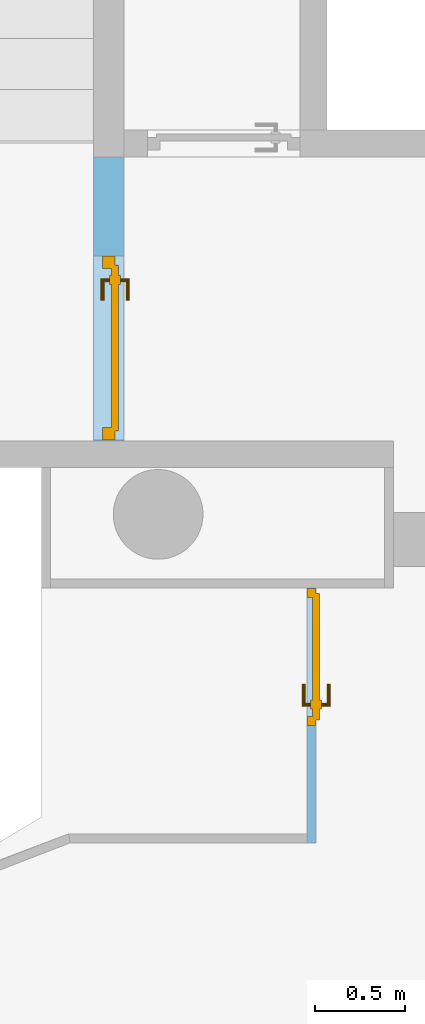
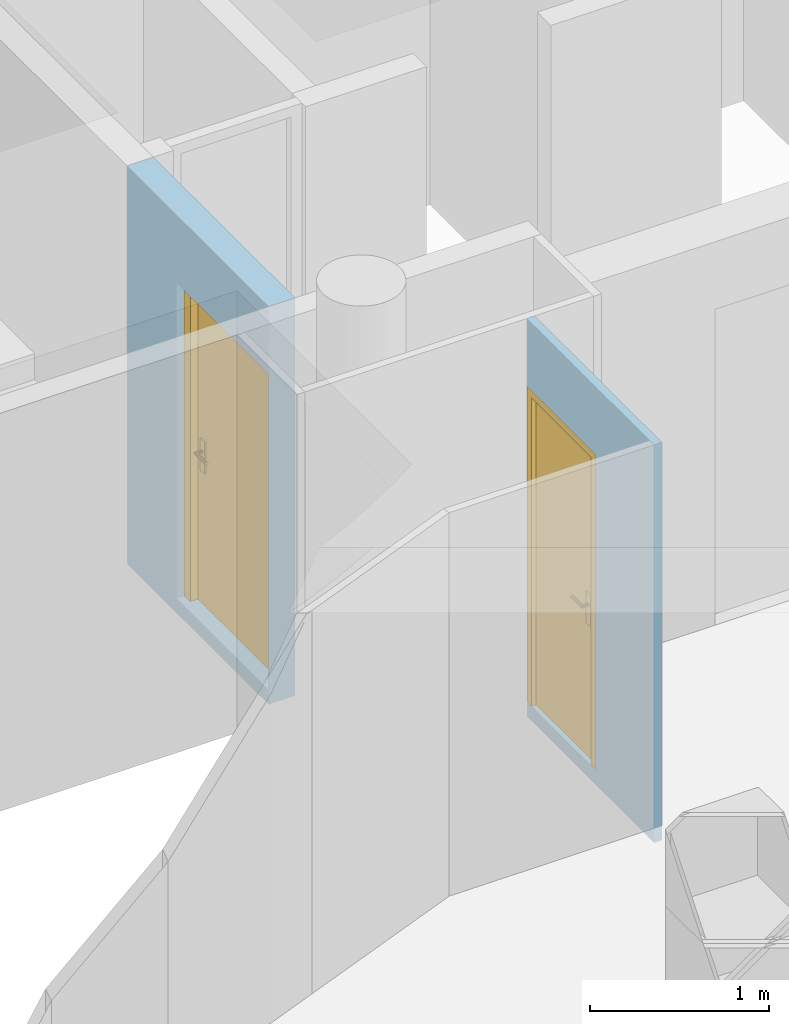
"""IFC4 building model written with IfcOpenShell, lengths in metres."""

from ifc_helpers import new_model, entity, si_unit, converted_unit, derived_unit, frame, frame_2d, origin, origin_with_axes, place, context, subcontext, project, spatial, polyline, rectangle, outline, extrude, faceted_brep, source, transform, mapped, material, layer, layer_set, layer_usage, element, fill, save


model = new_model("IFC4")

# Units and contexts
model_context = context("Model", 3, precision=1e-05, world=origin())
body_context = subcontext(model_context, "Body", "Model", "MODEL_VIEW")
ifc_project = project(units=[si_unit("LENGTHUNIT", "METRE"), si_unit("AREAUNIT", "SQUARE_METRE"), si_unit("VOLUMEUNIT", "CUBIC_METRE"), si_unit("MASSUNIT", "GRAM", prefix="KILO"), converted_unit("PLANEANGLEUNIT", "DEGREE", entity("IfcPlaneAngleMeasure", 0.0174532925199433), si_unit("PLANEANGLEUNIT", "RADIAN"), dimensions=[0, 0, 0, 0, 0, 0, 0]), derived_unit("THERMALTRANSMITTANCEUNIT", [(si_unit("POWERUNIT", "WATT"), 1), (si_unit("THERMODYNAMICTEMPERATUREUNIT", "KELVIN"), -1), (si_unit("LENGTHUNIT", "METRE"), -2)]), derived_unit("VOLUMETRICFLOWRATEUNIT", [(si_unit("LENGTHUNIT", "METRE"), 3), (converted_unit("TIMEUNIT", "hour", entity("IfcTimeMeasure", 3600.0), si_unit("TIMEUNIT", "SECOND"), dimensions=[0, 0, 1, 0, 0, 0, 0]), -1), (si_unit("LENGTHUNIT", "METRE"), -1)])], contexts=[model_context])

# Building, storeys
building_placement = place(None, origin())
building = spatial("IfcBuilding", under=ifc_project, at=building_placement, Name="HABITATGE PLURIFAMILIAR", CompositionType="ELEMENT")
storey_1_placement = place(building_placement, frame((0.0, 0.0, 12.27)))
storey_1 = spatial("IfcBuildingStorey", under=building, at=storey_1_placement, Name="PLANTA TERCERA", CompositionType="ELEMENT", Elevation=12.27)
storey_2_placement = place(storey_1_placement, frame((0.0, 0.0, 9.26)))
storey_2 = spatial("IfcBuildingStorey", under=storey_1, at=storey_2_placement, Name="NOU", CompositionType="PARTIAL")

# Wall, opening, door
ifc_material_1 = material()
ifc_layer_1 = layer(ifc_material_1, 0.05)
ifc_layer_set_1 = layer_set([ifc_layer_1])
ifc_layer_usage_1 = layer_usage(ifc_layer_set_1, "AXIS2", "POSITIVE", 0.0)
wall_1_placement = place(storey_2_placement, frame((417.016984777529, 22.0694598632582, -9.36), z_axis=(0.0, 0.0, 1.0), x_axis=(0.0, 1.0, 0.0)))
wall_1 = element("IfcWall", 1, at=wall_1_placement, inside=storey_2, material=ifc_layer_usage_1, Name="Mampara P3", context=body_context, shape_type="SweptSolid", body=[
    extrude(rectangle(XDim=1.42000000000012, YDim=0.05, at=frame_2d((0.710000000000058, 0.025), x_axis=(1.0, 0.0))), origin_with_axes(), (0.0, 0.0, 1.0), 2.71),
])
opening_1_placement = place(wall_1_placement, frame((1.41815089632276, 0.05, 0.1), z_axis=(0.0, -1.0, 0.0), x_axis=(0.0, 0.0, 1.0)))
opening_1 = element("IfcOpeningElement", 2, at=opening_1_placement, cuts=wall_1, Name="Vano porta P3", ObjectType="Opening", context=body_context, shape_type="SweptSolid", body=[
    extrude(outline(polyline([(2.15, 0.76331705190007), (2.15, 0.0), (0.0, 0.0), (0.0, 0.76331705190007), (2.15, 0.76331705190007)])), origin_with_axes(), (0.0, 0.0, 1.0), 0.05),
])
shared_shape_1 = source(origin_with_axes(), body_context, "Body", "Brep", [
    faceted_brep([(0.763317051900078, 0.0499999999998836, 2.15), (0.713317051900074, 0.0499999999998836, 2.15), (0.713317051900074, 0.0499999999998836, 0.0), (0.763317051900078, 0.0499999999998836, 0.0), (0.763317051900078, 0.0, 0.0), (0.713317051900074, 0.0, 0.0), (0.713317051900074, 0.0, 2.15), (0.763317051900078, 0.0, 2.15)], [[[0, 1, 2, 3]], [[4, 5, 6, 7]], [[3, 4, 7, 0]], [[2, 5, 4, 3]], [[1, 6, 5, 2]], [[0, 7, 6, 1]]], orient=[[False], [False], [False], [False], [False], [False]]),
    faceted_brep([(0.0500000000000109, 0.0499999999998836, 2.15), (0.0, 0.0499999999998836, 2.15), (0.0, 0.0499999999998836, 0.0), (0.0500000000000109, 0.0499999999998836, 0.0), (0.0500000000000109, 0.0, 0.0), (0.0, 0.0, 0.0), (0.0, 0.0, 2.15), (0.0500000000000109, 0.0, 2.15)], [[[0, 1, 2, 3]], [[4, 5, 6, 7]], [[3, 4, 7, 0]], [[2, 5, 4, 3]], [[1, 6, 5, 2]], [[0, 7, 6, 1]]], orient=[[False], [False], [False], [False], [False], [False]]),
    faceted_brep([(0.713317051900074, 0.0499999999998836, 2.15), (0.0500000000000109, 0.0499999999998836, 2.15), (0.0500000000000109, 0.0499999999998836, 2.1), (0.713317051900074, 0.0499999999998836, 2.1), (0.713317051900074, 0.0, 2.1), (0.0500000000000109, 0.0, 2.1), (0.0500000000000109, 0.0, 2.15), (0.713317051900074, 0.0, 2.15)], [[[0, 1, 2, 3]], [[4, 5, 6, 7]], [[3, 4, 7, 0]], [[2, 5, 4, 3]], [[1, 6, 5, 2]], [[0, 7, 6, 1]]], orient=[[False], [False], [False], [False], [False], [False]]),
    faceted_brep([(0.733317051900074, 0.0699999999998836, 2.12), (0.0300000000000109, 0.0699999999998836, 2.12), (0.0300000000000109, 0.0699999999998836, 0.0), (0.733317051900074, 0.0699999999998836, 0.0), (0.733317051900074, 0.0299999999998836, 0.0), (0.0300000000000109, 0.0299999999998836, 0.0), (0.0300000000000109, 0.0299999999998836, 2.12), (0.733317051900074, 0.0299999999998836, 2.12)], [[[0, 1, 2, 3]], [[4, 5, 6, 7]], [[3, 4, 7, 0]], [[2, 5, 4, 3]], [[1, 6, 5, 2]], [[0, 7, 6, 1]]], orient=[[False], [False], [False], [False], [False], [False]]),
    faceted_brep([(0.673317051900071, 0.0299999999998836, 1.125), (0.623317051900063, 0.0299999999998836, 1.125), (0.623317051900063, 0.0299999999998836, 0.91), (0.673317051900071, 0.0299999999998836, 0.91), (0.673317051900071, 0.0199999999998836, 0.91), (0.623317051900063, 0.0199999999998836, 0.91), (0.623317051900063, 0.0199999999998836, 1.125), (0.673317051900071, 0.0199999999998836, 1.125)], [[[0, 1, 2, 3]], [[4, 5, 6, 7]], [[3, 4, 7, 0]], [[2, 5, 4, 3]], [[1, 6, 5, 2]], [[0, 7, 6, 1]]], orient=[[False], [False], [False], [False], [False], [False]]),
    faceted_brep([(0.648317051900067, 0.0199999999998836, 1.06), (0.643317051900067, 0.0199999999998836, 1.05866025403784), (0.639656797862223, 0.0199999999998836, 1.055), (0.638317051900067, 0.0199999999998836, 1.05), (0.639656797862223, 0.0199999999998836, 1.045), (0.643317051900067, 0.0199999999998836, 1.04133974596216), (0.648317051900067, 0.0199999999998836, 1.04), (0.653317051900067, 0.0199999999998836, 1.04133974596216), (0.656977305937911, 0.0199999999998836, 1.045), (0.658317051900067, 0.0199999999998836, 1.05), (0.656977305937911, 0.0199999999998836, 1.055), (0.653317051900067, 0.0199999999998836, 1.05866025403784), (0.653317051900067, -0.0250000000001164, 1.05866025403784), (0.648317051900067, -0.0200000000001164, 1.06), (0.656977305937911, -0.028660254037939, 1.055), (0.658317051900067, -0.0300000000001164, 1.05), (0.656977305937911, -0.028660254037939, 1.045), (0.653317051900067, -0.0250000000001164, 1.04133974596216), (0.648317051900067, -0.0200000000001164, 1.04), (0.643317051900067, -0.0150000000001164, 1.04133974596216), (0.639656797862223, -0.0113397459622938, 1.045), (0.638317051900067, -0.0100000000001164, 1.05), (0.639656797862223, -0.0113397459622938, 1.055), (0.643317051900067, -0.0150000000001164, 1.05866025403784), (0.533317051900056, -0.0200000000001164, 1.06), (0.533317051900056, -0.0250000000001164, 1.05866025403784), (0.533317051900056, -0.028660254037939, 1.055), (0.533317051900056, -0.0300000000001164, 1.05), (0.533317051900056, -0.028660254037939, 1.045), (0.533317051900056, -0.0250000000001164, 1.04133974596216), (0.533317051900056, -0.0200000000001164, 1.04), (0.533317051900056, -0.0150000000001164, 1.04133974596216), (0.533317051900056, -0.0113397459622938, 1.045), (0.533317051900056, -0.0100000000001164, 1.05), (0.533317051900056, -0.0113397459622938, 1.055), (0.533317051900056, -0.0150000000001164, 1.05866025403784)], [[[0, 1, 2, 3, 4, 5, 6, 7, 8, 9, 10, 11]], [[0, 11, 12, 13]], [[11, 10, 14, 12]], [[10, 9, 15, 14]], [[9, 8, 16, 15]], [[8, 7, 17, 16]], [[7, 6, 18, 17]], [[6, 5, 19, 18]], [[5, 4, 20, 19]], [[4, 3, 21, 20]], [[3, 2, 22, 21]], [[2, 1, 23, 22]], [[1, 0, 13, 23]], [[24, 25, 26, 27, 28, 29, 30, 31, 32, 33, 34, 35]], [[13, 12, 25, 24]], [[12, 14, 26, 25]], [[14, 15, 27, 26]], [[15, 16, 28, 27]], [[16, 17, 29, 28]], [[17, 18, 30, 29]], [[18, 19, 31, 30]], [[19, 20, 32, 31]], [[20, 21, 33, 32]], [[21, 22, 34, 33]], [[22, 23, 35, 34]], [[23, 13, 24, 35]]], orient=[[False], [False], [False], [False], [False], [False], [False], [False], [False], [False], [False], [False], [False], [False], [False], [False], [False], [False], [False], [False], [False], [False], [False], [False], [False], [False]]),
    faceted_brep([(0.673317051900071, 0.0699999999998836, 1.125), (0.673317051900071, 0.0699999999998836, 0.91), (0.623317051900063, 0.0699999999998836, 0.91), (0.623317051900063, 0.0699999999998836, 1.125), (0.673317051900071, 0.0799999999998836, 0.91), (0.673317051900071, 0.0799999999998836, 1.125), (0.623317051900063, 0.0799999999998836, 1.125), (0.623317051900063, 0.0799999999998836, 0.91)], [[[0, 1, 2, 3]], [[4, 5, 6, 7]], [[1, 0, 5, 4]], [[2, 1, 4, 7]], [[3, 2, 7, 6]], [[0, 3, 6, 5]]], orient=[[False], [False], [False], [False], [False], [False]]),
    faceted_brep([(0.648317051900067, 0.0799999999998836, 1.06), (0.653317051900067, 0.0799999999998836, 1.05866025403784), (0.656977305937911, 0.0799999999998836, 1.055), (0.658317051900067, 0.0799999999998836, 1.05), (0.656977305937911, 0.0799999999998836, 1.045), (0.653317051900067, 0.0799999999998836, 1.04133974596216), (0.648317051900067, 0.0799999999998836, 1.04), (0.643317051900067, 0.0799999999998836, 1.04133974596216), (0.639656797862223, 0.0799999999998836, 1.045), (0.638317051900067, 0.0799999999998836, 1.05), (0.639656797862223, 0.0799999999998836, 1.055), (0.643317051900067, 0.0799999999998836, 1.05866025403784), (0.648317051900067, 0.119999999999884, 1.06), (0.653317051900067, 0.124999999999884, 1.05866025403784), (0.656977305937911, 0.128660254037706, 1.055), (0.658317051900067, 0.129999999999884, 1.05), (0.656977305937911, 0.128660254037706, 1.045), (0.653317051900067, 0.124999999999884, 1.04133974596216), (0.648317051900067, 0.119999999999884, 1.04), (0.643317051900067, 0.114999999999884, 1.04133974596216), (0.639656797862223, 0.111339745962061, 1.045), (0.638317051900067, 0.109999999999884, 1.05), (0.639656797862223, 0.111339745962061, 1.055), (0.643317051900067, 0.114999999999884, 1.05866025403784), (0.533317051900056, 0.119999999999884, 1.06), (0.533317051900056, 0.114999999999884, 1.05866025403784), (0.533317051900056, 0.111339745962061, 1.055), (0.533317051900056, 0.109999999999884, 1.05), (0.533317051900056, 0.111339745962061, 1.045), (0.533317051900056, 0.114999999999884, 1.04133974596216), (0.533317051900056, 0.119999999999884, 1.04), (0.533317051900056, 0.124999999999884, 1.04133974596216), (0.533317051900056, 0.128660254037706, 1.045), (0.533317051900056, 0.129999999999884, 1.05), (0.533317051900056, 0.128660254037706, 1.055), (0.533317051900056, 0.124999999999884, 1.05866025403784)], [[[0, 1, 2, 3, 4, 5, 6, 7, 8, 9, 10, 11]], [[0, 12, 13, 1]], [[1, 13, 14, 2]], [[2, 14, 15, 3]], [[3, 15, 16, 4]], [[4, 16, 17, 5]], [[5, 17, 18, 6]], [[6, 18, 19, 7]], [[7, 19, 20, 8]], [[8, 20, 21, 9]], [[9, 21, 22, 10]], [[10, 22, 23, 11]], [[11, 23, 12, 0]], [[24, 25, 26, 27, 28, 29, 30, 31, 32, 33, 34, 35]], [[12, 24, 35, 13]], [[13, 35, 34, 14]], [[14, 34, 33, 15]], [[15, 33, 32, 16]], [[16, 32, 31, 17]], [[17, 31, 30, 18]], [[18, 30, 29, 19]], [[19, 29, 28, 20]], [[20, 28, 27, 21]], [[21, 27, 26, 22]], [[22, 26, 25, 23]], [[23, 25, 24, 12]]], orient=[[False], [False], [False], [False], [False], [False], [False], [False], [False], [False], [False], [False], [False], [False], [False], [False], [False], [False], [False], [False], [False], [False], [False], [False], [False], [False]]),
])
door_1_placement = place(opening_1_placement, frame((0.0, 0.0, 0.0), z_axis=(1.0, 0.0, 0.0), x_axis=(0.0, 1.0, 0.0)))
door_1 = element("IfcDoor", 3, at=door_1_placement, inside=storey_2, Name="Porta P3", OperationType="USERDEFINED", OverallHeight=2.15, OverallWidth=0.76332, PredefinedType="DOOR", context=body_context, shape_type="MappedRepresentation", body=[
    mapped(shared_shape_1, transform((0.0, 0.0, 0.0), x_axis=(1.0, 0.0, 0.0), y_axis=(0.0, 1.0, 0.0), z_axis=(0.0, 0.0, 1.0), scale=1.0)),
])
fill(opening_1, door_1)

ifc_material_2 = material()
ifc_layer_2 = layer(ifc_material_2, 0.17)
ifc_layer_set_2 = layer_set([ifc_layer_2])
ifc_layer_usage_2 = layer_usage(ifc_layer_set_2, "AXIS2", "POSITIVE", 0.0)
wall_2_placement = place(storey_2_placement, frame((415.776984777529, 25.8894598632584, -9.36), z_axis=(0.0, 0.0, 1.0), x_axis=(0.0, -1.0, 0.0)))
wall_2 = element("IfcWall", 4, at=wall_2_placement, inside=storey_2, material=ifc_layer_usage_2, Name="Evans P3", context=body_context, shape_type="SweptSolid", body=[
    extrude(rectangle(XDim=1.58, YDim=0.17, at=frame_2d((0.789999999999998, 0.085), x_axis=(1.0, 0.0))), origin_with_axes(), (0.0, 0.0, 1.0), 2.71),
])
opening_2_placement = place(wall_2_placement, frame((1.57643988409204, 0.17, 0.1), z_axis=(0.0, -1.0, 0.0), x_axis=(0.0, 0.0, 1.0)))
opening_2 = element("IfcOpeningElement", 5, at=opening_2_placement, cuts=wall_2, Name="Vano porta P3", ObjectType="Opening", context=body_context, shape_type="SweptSolid", body=[
    extrude(outline(polyline([(2.15, 1.02664424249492), (2.15, 0.0), (0.0, 0.0), (0.0, 1.02664424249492), (2.15, 1.02664424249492)])), origin_with_axes(), (0.0, 0.0, 1.0), 0.17),
])
shared_shape_2 = source(origin_with_axes(), body_context, "Body", "Brep", [
    faceted_brep([(0.0, 0.0699999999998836, 2.15), (0.0, 0.0699999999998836, 0.0), (0.0700000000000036, 0.0699999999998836, 0.0), (0.0700000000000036, 0.0699999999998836, 2.15), (0.0, 0.0, 0.0), (0.0, 0.0, 2.15), (0.0700000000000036, 0.0, 2.15), (0.0700000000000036, 0.0, 0.0)], [[[0, 1, 2, 3]], [[4, 5, 6, 7]], [[1, 0, 5, 4]], [[2, 1, 4, 7]], [[3, 2, 7, 6]], [[0, 3, 6, 5]]], orient=[[False], [False], [False], [False], [False], [False]]),
    faceted_brep([(0.956644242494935, 0.0699999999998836, 2.15), (0.956644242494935, 0.0699999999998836, 0.0), (1.02664424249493, 0.0699999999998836, 0.0), (1.02664424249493, 0.0699999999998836, 2.15), (0.956644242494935, 0.0, 0.0), (0.956644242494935, 0.0, 2.15), (1.02664424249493, 0.0, 2.15), (1.02664424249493, 0.0, 0.0)], [[[0, 1, 2, 3]], [[4, 5, 6, 7]], [[1, 0, 5, 4]], [[2, 1, 4, 7]], [[3, 2, 7, 6]], [[0, 3, 6, 5]]], orient=[[False], [False], [False], [False], [False], [False]]),
    faceted_brep([(0.0700000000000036, 0.0699999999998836, 2.15), (0.0700000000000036, 0.0699999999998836, 2.08), (0.956644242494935, 0.0699999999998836, 2.08), (0.956644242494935, 0.0699999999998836, 2.15), (0.0700000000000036, 0.0, 2.08), (0.0700000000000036, 0.0, 2.15), (0.956644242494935, 0.0, 2.15), (0.956644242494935, 0.0, 2.08)], [[[0, 1, 2, 3]], [[4, 5, 6, 7]], [[1, 0, 5, 4]], [[2, 1, 4, 7]], [[3, 2, 7, 6]], [[0, 3, 6, 5]]], orient=[[False], [False], [False], [False], [False], [False]]),
    faceted_brep([(0.0500000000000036, 0.0899999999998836, 2.1), (0.0500000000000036, 0.0899999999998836, 0.0), (0.976644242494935, 0.0899999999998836, 0.0), (0.976644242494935, 0.0899999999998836, 2.1), (0.0500000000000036, 0.0499999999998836, 0.0), (0.0500000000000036, 0.0499999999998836, 2.1), (0.976644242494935, 0.0499999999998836, 2.1), (0.976644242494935, 0.0499999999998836, 0.0)], [[[0, 1, 2, 3]], [[4, 5, 6, 7]], [[1, 0, 5, 4]], [[2, 1, 4, 7]], [[3, 2, 7, 6]], [[0, 3, 6, 5]]], orient=[[False], [False], [False], [False], [False], [False]]),
    faceted_brep([(0.11, 0.0499999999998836, 1.125), (0.11, 0.0499999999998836, 0.91), (0.159999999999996, 0.0499999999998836, 0.91), (0.159999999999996, 0.0499999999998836, 1.125), (0.11, 0.0399999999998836, 0.91), (0.11, 0.0399999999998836, 1.125), (0.159999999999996, 0.0399999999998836, 1.125), (0.159999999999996, 0.0399999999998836, 0.91)], [[[0, 1, 2, 3]], [[4, 5, 6, 7]], [[1, 0, 5, 4]], [[2, 1, 4, 7]], [[3, 2, 7, 6]], [[0, 3, 6, 5]]], orient=[[False], [False], [False], [False], [False], [False]]),
    faceted_brep([(0.134999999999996, 0.0399999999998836, 1.06), (0.129999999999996, 0.0399999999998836, 1.05866025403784), (0.126339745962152, 0.0399999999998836, 1.055), (0.124999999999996, 0.0399999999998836, 1.05), (0.126339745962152, 0.0399999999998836, 1.045), (0.129999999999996, 0.0399999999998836, 1.04133974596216), (0.134999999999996, 0.0399999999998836, 1.04), (0.139999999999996, 0.0399999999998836, 1.04133974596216), (0.143660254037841, 0.0399999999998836, 1.045), (0.144999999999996, 0.0399999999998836, 1.05), (0.143660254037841, 0.0399999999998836, 1.055), (0.139999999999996, 0.0399999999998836, 1.05866025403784), (0.134999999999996, 0.0, 1.06), (0.129999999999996, -0.00500000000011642, 1.05866025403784), (0.126339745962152, -0.00866025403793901, 1.055), (0.124999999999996, -0.0100000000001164, 1.05), (0.126339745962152, -0.00866025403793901, 1.045), (0.129999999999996, -0.00500000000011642, 1.04133974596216), (0.134999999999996, 0.0, 1.04), (0.139999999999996, 0.00499999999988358, 1.04133974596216), (0.143660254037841, 0.00866025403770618, 1.045), (0.144999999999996, 0.00999999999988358, 1.05), (0.143660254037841, 0.00866025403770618, 1.055), (0.139999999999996, 0.00499999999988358, 1.05866025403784), (0.249999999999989, 0.0, 1.06), (0.249999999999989, 0.00499999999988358, 1.05866025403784), (0.249999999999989, 0.00866025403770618, 1.055), (0.249999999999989, 0.00999999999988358, 1.05), (0.249999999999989, 0.00866025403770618, 1.045), (0.249999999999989, 0.00499999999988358, 1.04133974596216), (0.249999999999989, 0.0, 1.04), (0.249999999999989, -0.00500000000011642, 1.04133974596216), (0.249999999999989, -0.00866025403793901, 1.045), (0.249999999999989, -0.0100000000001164, 1.05), (0.249999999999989, -0.00866025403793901, 1.055), (0.249999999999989, -0.00500000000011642, 1.05866025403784)], [[[0, 1, 2, 3, 4, 5, 6, 7, 8, 9, 10, 11]], [[0, 12, 13, 1]], [[1, 13, 14, 2]], [[2, 14, 15, 3]], [[3, 15, 16, 4]], [[4, 16, 17, 5]], [[5, 17, 18, 6]], [[6, 18, 19, 7]], [[7, 19, 20, 8]], [[8, 20, 21, 9]], [[9, 21, 22, 10]], [[10, 22, 23, 11]], [[11, 23, 12, 0]], [[24, 25, 26, 27, 28, 29, 30, 31, 32, 33, 34, 35]], [[12, 24, 35, 13]], [[13, 35, 34, 14]], [[14, 34, 33, 15]], [[15, 33, 32, 16]], [[16, 32, 31, 17]], [[17, 31, 30, 18]], [[18, 30, 29, 19]], [[19, 29, 28, 20]], [[20, 28, 27, 21]], [[21, 27, 26, 22]], [[22, 26, 25, 23]], [[23, 25, 24, 12]]], orient=[[False], [False], [False], [False], [False], [False], [False], [False], [False], [False], [False], [False], [False], [False], [False], [False], [False], [False], [False], [False], [False], [False], [False], [False], [False], [False]]),
    faceted_brep([(0.11, 0.0899999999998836, 1.125), (0.159999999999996, 0.0899999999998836, 1.125), (0.159999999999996, 0.0899999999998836, 0.91), (0.11, 0.0899999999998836, 0.91), (0.11, 0.0999999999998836, 0.91), (0.159999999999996, 0.0999999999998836, 0.91), (0.159999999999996, 0.0999999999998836, 1.125), (0.11, 0.0999999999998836, 1.125)], [[[0, 1, 2, 3]], [[4, 5, 6, 7]], [[3, 4, 7, 0]], [[2, 5, 4, 3]], [[1, 6, 5, 2]], [[0, 7, 6, 1]]], orient=[[False], [False], [False], [False], [False], [False]]),
    faceted_brep([(0.134999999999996, 0.0999999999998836, 1.06), (0.139999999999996, 0.0999999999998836, 1.05866025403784), (0.143660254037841, 0.0999999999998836, 1.055), (0.144999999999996, 0.0999999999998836, 1.05), (0.143660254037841, 0.0999999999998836, 1.045), (0.139999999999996, 0.0999999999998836, 1.04133974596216), (0.134999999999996, 0.0999999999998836, 1.04), (0.129999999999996, 0.0999999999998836, 1.04133974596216), (0.126339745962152, 0.0999999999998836, 1.045), (0.124999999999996, 0.0999999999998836, 1.05), (0.126339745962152, 0.0999999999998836, 1.055), (0.129999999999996, 0.0999999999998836, 1.05866025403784), (0.129999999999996, 0.144999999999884, 1.05866025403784), (0.134999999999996, 0.139999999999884, 1.06), (0.126339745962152, 0.148660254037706, 1.055), (0.124999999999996, 0.149999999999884, 1.05), (0.126339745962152, 0.148660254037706, 1.045), (0.129999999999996, 0.144999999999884, 1.04133974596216), (0.134999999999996, 0.139999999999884, 1.04), (0.139999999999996, 0.134999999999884, 1.04133974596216), (0.143660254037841, 0.131339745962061, 1.045), (0.144999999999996, 0.129999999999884, 1.05), (0.143660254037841, 0.131339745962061, 1.055), (0.139999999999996, 0.134999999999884, 1.05866025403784), (0.249999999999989, 0.139999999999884, 1.06), (0.249999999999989, 0.144999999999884, 1.05866025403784), (0.249999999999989, 0.148660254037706, 1.055), (0.249999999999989, 0.149999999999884, 1.05), (0.249999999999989, 0.148660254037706, 1.045), (0.249999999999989, 0.144999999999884, 1.04133974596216), (0.249999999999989, 0.139999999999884, 1.04), (0.249999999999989, 0.134999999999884, 1.04133974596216), (0.249999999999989, 0.131339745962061, 1.045), (0.249999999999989, 0.129999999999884, 1.05), (0.249999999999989, 0.131339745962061, 1.055), (0.249999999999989, 0.134999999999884, 1.05866025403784)], [[[0, 1, 2, 3, 4, 5, 6, 7, 8, 9, 10, 11]], [[0, 11, 12, 13]], [[11, 10, 14, 12]], [[10, 9, 15, 14]], [[9, 8, 16, 15]], [[8, 7, 17, 16]], [[7, 6, 18, 17]], [[6, 5, 19, 18]], [[5, 4, 20, 19]], [[4, 3, 21, 20]], [[3, 2, 22, 21]], [[2, 1, 23, 22]], [[1, 0, 13, 23]], [[24, 25, 26, 27, 28, 29, 30, 31, 32, 33, 34, 35]], [[13, 12, 25, 24]], [[12, 14, 26, 25]], [[14, 15, 27, 26]], [[15, 16, 28, 27]], [[16, 17, 29, 28]], [[17, 18, 30, 29]], [[18, 19, 31, 30]], [[19, 20, 32, 31]], [[20, 21, 33, 32]], [[21, 22, 34, 33]], [[22, 23, 35, 34]], [[23, 13, 24, 35]]], orient=[[False], [False], [False], [False], [False], [False], [False], [False], [False], [False], [False], [False], [False], [False], [False], [False], [False], [False], [False], [False], [False], [False], [False], [False], [False], [False]]),
])
door_2_placement = place(opening_2_placement, frame((0.0, 1.02664424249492, 0.12), z_axis=(1.0, 0.0, 0.0), x_axis=(0.0, -1.0, 0.0)))
door_2 = element("IfcDoor", 6, at=door_2_placement, inside=storey_2, Name="Porta P3", OperationType="USERDEFINED", OverallHeight=2.15, OverallWidth=1.02664, PredefinedType="DOOR", context=body_context, shape_type="MappedRepresentation", body=[
    mapped(shared_shape_2, transform((0.0, 0.0, 0.0), x_axis=(1.0, 0.0, 0.0), y_axis=(0.0, 1.0, 0.0), z_axis=(0.0, 0.0, 1.0), scale=1.0)),
])
fill(opening_2, door_2)

save(model, "model.ifc")
